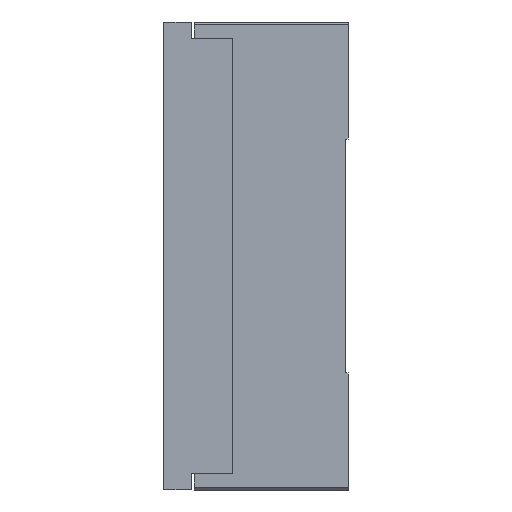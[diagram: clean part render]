
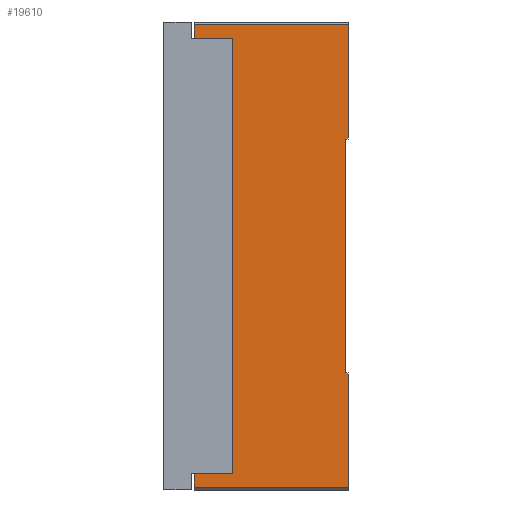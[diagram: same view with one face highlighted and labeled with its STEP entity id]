
A CAD part, left-side view. The second image highlights one B-rep face of the part: STEP entity #19610.
In plain terms, the highlighted planar face has unit normal (-1, 0, 0).
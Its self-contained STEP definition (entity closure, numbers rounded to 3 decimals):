
#364 = CARTESIAN_POINT ( 'NONE',  ( -132.5, 56., 79. ) ) ;
#528 = CARTESIAN_POINT ( 'NONE',  ( -132.5, 56., 79. ) ) ;
#1143 = VERTEX_POINT ( 'NONE', #12705 ) ;
#1300 = ORIENTED_EDGE ( 'NONE', *, *, #31244, .T. ) ;
#1435 = VERTEX_POINT ( 'NONE', #21424 ) ;
#1608 = EDGE_CURVE ( 'NONE', #12255, #32353, #23965, .T. ) ;
#1763 = AXIS2_PLACEMENT_3D ( 'NONE', #2023, #1973, #1932 ) ;
#1932 = DIRECTION ( 'NONE',  ( 0., 0., 1. ) ) ;
#1973 = DIRECTION ( 'NONE',  ( -1., 0., 0. ) ) ;
#2023 = CARTESIAN_POINT ( 'NONE',  ( -132.5, 56., 85. ) ) ;
#2026 = PLANE ( 'NONE',  #1763 ) ;
#2665 = VERTEX_POINT ( 'NONE', #6641 ) ;
#3725 = ORIENTED_EDGE ( 'NONE', *, *, #38295, .F. ) ;
#3782 = VECTOR ( 'NONE', #22992, 1000. ) ;
#3888 = DIRECTION ( 'NONE',  ( 0., 1., 0. ) ) ;
#5114 = FACE_OUTER_BOUND ( 'NONE', #33324, .T. ) ;
#5376 = EDGE_CURVE ( 'NONE', #1435, #8181, #6245, .T. ) ;
#6222 = CARTESIAN_POINT ( 'NONE',  ( -132.5, 56., -79. ) ) ;
#6239 = ORIENTED_EDGE ( 'NONE', *, *, #36567, .F. ) ;
#6245 = LINE ( 'NONE', #14396, #30160 ) ;
#6493 = EDGE_CURVE ( 'NONE', #32353, #16868, #23907, .T. ) ;
#6539 = ORIENTED_EDGE ( 'NONE', *, *, #5376, .T. ) ;
#6641 = CARTESIAN_POINT ( 'NONE',  ( -132.5, 56., 84. ) ) ;
#7383 = CARTESIAN_POINT ( 'NONE',  ( -132.5, 42., 79. ) ) ;
#8036 = EDGE_CURVE ( 'NONE', #15731, #1143, #13378, .T. ) ;
#8181 = VERTEX_POINT ( 'NONE', #28658 ) ;
#9037 = CARTESIAN_POINT ( 'NONE',  ( -132.5, 1., -42.5 ) ) ;
#11177 = LINE ( 'NONE', #34654, #36719 ) ;
#12255 = VERTEX_POINT ( 'NONE', #34445 ) ;
#12705 = CARTESIAN_POINT ( 'NONE',  ( -132.5, 0., 42.5 ) ) ;
#13378 = LINE ( 'NONE', #31487, #36985 ) ;
#13822 = DIRECTION ( 'NONE',  ( 0., -1., 0. ) ) ;
#13887 = VERTEX_POINT ( 'NONE', #7383 ) ;
#14085 = VECTOR ( 'NONE', #38971, 1000. ) ;
#14396 = CARTESIAN_POINT ( 'NONE',  ( -132.5, 0., -84. ) ) ;
#14677 = VECTOR ( 'NONE', #23465, 1000. ) ;
#15682 = ORIENTED_EDGE ( 'NONE', *, *, #36711, .T. ) ;
#15731 = VERTEX_POINT ( 'NONE', #22378 ) ;
#15784 = ORIENTED_EDGE ( 'NONE', *, *, #1608, .F. ) ;
#15897 = VERTEX_POINT ( 'NONE', #20210 ) ;
#16434 = DIRECTION ( 'NONE',  ( 0., -1., 0. ) ) ;
#16563 = CARTESIAN_POINT ( 'NONE',  ( -132.5, 1., 42.5 ) ) ;
#16692 = ORIENTED_EDGE ( 'NONE', *, *, #6493, .F. ) ;
#16868 = VERTEX_POINT ( 'NONE', #38747 ) ;
#16954 = VECTOR ( 'NONE', #34108, 1000. ) ;
#17698 = CARTESIAN_POINT ( 'NONE',  ( -132.5, 1., -42.5 ) ) ;
#17712 = ORIENTED_EDGE ( 'NONE', *, *, #36162, .T. ) ;
#18222 = DIRECTION ( 'NONE',  ( 0., 0., 1. ) ) ;
#19197 = LINE ( 'NONE', #364, #20700 ) ;
#19610 = ADVANCED_FACE ( 'NONE', ( #5114 ), #2026, .T. ) ;
#19851 = LINE ( 'NONE', #30178, #24561 ) ;
#20177 = LINE ( 'NONE', #36550, #32621 ) ;
#20210 = CARTESIAN_POINT ( 'NONE',  ( -132.5, 42., -79. ) ) ;
#20433 = ORIENTED_EDGE ( 'NONE', *, *, #24189, .T. ) ;
#20700 = VECTOR ( 'NONE', #33823, 1000. ) ;
#21424 = CARTESIAN_POINT ( 'NONE',  ( -132.5, 56., -84. ) ) ;
#21862 = CARTESIAN_POINT ( 'NONE',  ( -132.5, 42., 69. ) ) ;
#22163 = CARTESIAN_POINT ( 'NONE',  ( -132.5, 56., -79. ) ) ;
#22378 = CARTESIAN_POINT ( 'NONE',  ( -132.5, 0., 84. ) ) ;
#22992 = DIRECTION ( 'NONE',  ( 0., -1., 0. ) ) ;
#23044 = CARTESIAN_POINT ( 'NONE',  ( -132.5, 1., -42.5 ) ) ;
#23465 = DIRECTION ( 'NONE',  ( 0., 0., -1. ) ) ;
#23745 = ORIENTED_EDGE ( 'NONE', *, *, #8036, .F. ) ;
#23907 = LINE ( 'NONE', #23044, #3782 ) ;
#23965 = LINE ( 'NONE', #17698, #14677 ) ;
#24189 = EDGE_CURVE ( 'NONE', #12255, #1143, #35543, .T. ) ;
#24561 = VECTOR ( 'NONE', #33265, 1000. ) ;
#24676 = LINE ( 'NONE', #21862, #16954 ) ;
#25932 = ORIENTED_EDGE ( 'NONE', *, *, #33831, .F. ) ;
#26399 = VECTOR ( 'NONE', #3888, 1000. ) ;
#27455 = VERTEX_POINT ( 'NONE', #6222 ) ;
#27635 = LINE ( 'NONE', #39014, #14085 ) ;
#28658 = CARTESIAN_POINT ( 'NONE',  ( -132.5, 0., -84. ) ) ;
#30160 = VECTOR ( 'NONE', #13822, 1000. ) ;
#30178 = CARTESIAN_POINT ( 'NONE',  ( -132.5, 56., 85. ) ) ;
#31244 = EDGE_CURVE ( 'NONE', #15731, #2665, #27635, .T. ) ;
#31431 = DIRECTION ( 'NONE',  ( 0., 0., -1. ) ) ;
#31487 = CARTESIAN_POINT ( 'NONE',  ( -132.5, 0., 85. ) ) ;
#32353 = VERTEX_POINT ( 'NONE', #9037 ) ;
#32621 = VECTOR ( 'NONE', #18222, 1000. ) ;
#33265 = DIRECTION ( 'NONE',  ( 0., 0., 1. ) ) ;
#33324 = EDGE_LOOP ( 'NONE', ( #15682, #17712, #25932, #6539, #3725, #16692, #15784, #20433, #23745, #1300, #6239, #38289 ) ) ;
#33823 = DIRECTION ( 'NONE',  ( 0., -1., 0. ) ) ;
#33831 = EDGE_CURVE ( 'NONE', #1435, #27455, #19851, .T. ) ;
#34108 = DIRECTION ( 'NONE',  ( 0., 0., -1. ) ) ;
#34445 = CARTESIAN_POINT ( 'NONE',  ( -132.5, 1., 42.5 ) ) ;
#34654 = CARTESIAN_POINT ( 'NONE',  ( -132.5, 0., 85. ) ) ;
#35459 = VECTOR ( 'NONE', #16434, 1000. ) ;
#35538 = LINE ( 'NONE', #22163, #26399 ) ;
#35543 = LINE ( 'NONE', #16563, #35459 ) ;
#35659 = EDGE_CURVE ( 'NONE', #36702, #13887, #19197, .T. ) ;
#36162 = EDGE_CURVE ( 'NONE', #15897, #27455, #35538, .T. ) ;
#36550 = CARTESIAN_POINT ( 'NONE',  ( -132.5, 56., 85. ) ) ;
#36567 = EDGE_CURVE ( 'NONE', #36702, #2665, #20177, .T. ) ;
#36702 = VERTEX_POINT ( 'NONE', #528 ) ;
#36711 = EDGE_CURVE ( 'NONE', #13887, #15897, #24676, .T. ) ;
#36719 = VECTOR ( 'NONE', #37772, 1000. ) ;
#36985 = VECTOR ( 'NONE', #31431, 1000. ) ;
#37772 = DIRECTION ( 'NONE',  ( 0., 0., -1. ) ) ;
#38289 = ORIENTED_EDGE ( 'NONE', *, *, #35659, .T. ) ;
#38295 = EDGE_CURVE ( 'NONE', #16868, #8181, #11177, .T. ) ;
#38747 = CARTESIAN_POINT ( 'NONE',  ( -132.5, 0., -42.5 ) ) ;
#38971 = DIRECTION ( 'NONE',  ( 0., 1., 0. ) ) ;
#39014 = CARTESIAN_POINT ( 'NONE',  ( -132.5, 56., 84. ) ) ;
